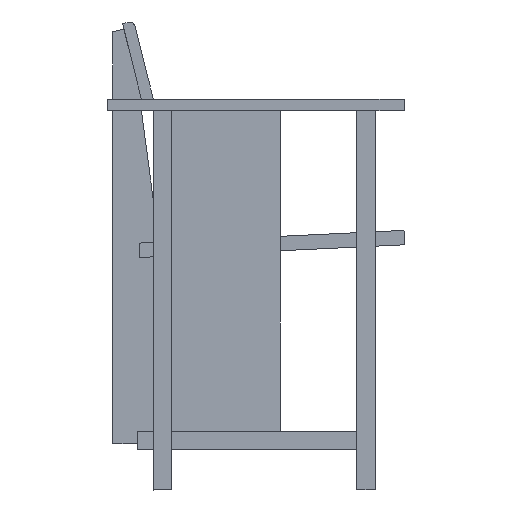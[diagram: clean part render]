
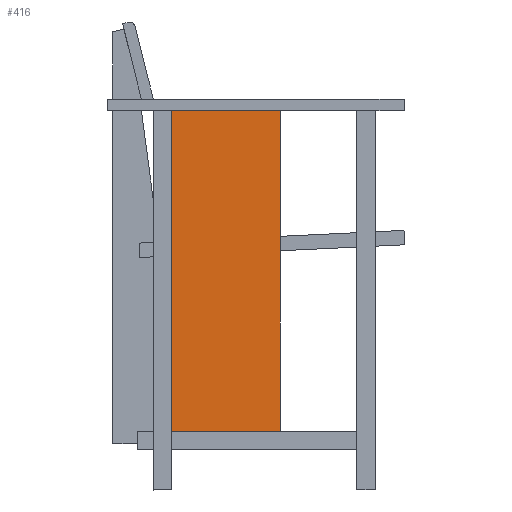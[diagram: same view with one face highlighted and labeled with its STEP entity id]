
A CAD part, left-side view. The second image highlights one B-rep face of the part: STEP entity #416.
In plain terms, the highlighted free-form (B-spline) face has degree [1, 1] with [2, 2] control points.
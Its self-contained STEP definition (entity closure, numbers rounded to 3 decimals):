
#416=ADVANCED_FACE('',(#551),#5558,.T.);
#551=FACE_OUTER_BOUND('',#686,.T.);
#686=EDGE_LOOP('',(#911,#912,#913,#914));
#911=ORIENTED_EDGE('',*,*,#3355,.T.);
#912=ORIENTED_EDGE('',*,*,#3356,.T.);
#913=ORIENTED_EDGE('',*,*,#3357,.T.);
#914=ORIENTED_EDGE('',*,*,#3358,.T.);
#1535=PCURVE('',#5558,#2159);
#1536=PCURVE('',#5558,#2160);
#1537=PCURVE('',#5558,#2161);
#1538=PCURVE('',#5558,#2162);
#2159=DEFINITIONAL_REPRESENTATION('',(#4048),#9857);
#2160=DEFINITIONAL_REPRESENTATION('',(#4050),#9857);
#2161=DEFINITIONAL_REPRESENTATION('',(#4052),#9857);
#2162=DEFINITIONAL_REPRESENTATION('',(#4054),#9857);
#2779=SURFACE_CURVE('',#4047,(#1535),.PCURVE_S1.);
#2780=SURFACE_CURVE('',#4049,(#1536),.PCURVE_S1.);
#2781=SURFACE_CURVE('',#4051,(#1537),.PCURVE_S1.);
#2782=SURFACE_CURVE('',#4053,(#1538),.PCURVE_S1.);
#3355=EDGE_CURVE('',#5094,#5092,#2779,.T.);
#3356=EDGE_CURVE('',#5092,#5093,#2780,.T.);
#3357=EDGE_CURVE('',#5093,#5095,#2781,.T.);
#3358=EDGE_CURVE('',#5095,#5094,#2782,.T.);
#4047=B_SPLINE_CURVE_WITH_KNOTS('',1,(#6419,#6420),.UNSPECIFIED.,.F.,.F.,
(2,2),(203.,388.),.UNSPECIFIED.);
#4048=B_SPLINE_CURVE_WITH_KNOTS('',1,(#6421,#6422),.UNSPECIFIED.,.F.,.F.,
(2,2),(203.,388.),.UNSPECIFIED.);
#4049=B_SPLINE_CURVE_WITH_KNOTS('',1,(#6423,#6424),.UNSPECIFIED.,.F.,.F.,
(2,2),(-556.,0.),.UNSPECIFIED.);
#4050=B_SPLINE_CURVE_WITH_KNOTS('',1,(#6425,#6426),.UNSPECIFIED.,.F.,.F.,
(2,2),(-556.,0.),.UNSPECIFIED.);
#4051=B_SPLINE_CURVE_WITH_KNOTS('',1,(#6427,#6428),.UNSPECIFIED.,.F.,.F.,
(2,2),(0.,188.),.UNSPECIFIED.);
#4052=B_SPLINE_CURVE_WITH_KNOTS('',1,(#6429,#6430),.UNSPECIFIED.,.F.,.F.,
(2,2),(0.,188.),.UNSPECIFIED.);
#4053=B_SPLINE_CURVE_WITH_KNOTS('',1,(#6431,#6432),.UNSPECIFIED.,.F.,.F.,
(2,2),(0.,556.),.UNSPECIFIED.);
#4054=B_SPLINE_CURVE_WITH_KNOTS('',1,(#6433,#6434),.UNSPECIFIED.,.F.,.F.,
(2,2),(0.,556.),.UNSPECIFIED.);
#5092=VERTEX_POINT('',#6415);
#5093=VERTEX_POINT('',#6416);
#5094=VERTEX_POINT('',#6417);
#5095=VERTEX_POINT('',#6418);
#5558=B_SPLINE_SURFACE_WITH_KNOTS('',1,1,((#6411,#6412),(#6413,#6414)),
 .UNSPECIFIED.,.F.,.F.,.F.,(2,2),(2,2),(0.,556.),(0.,204.968),
 .UNSPECIFIED.);
#6411=CARTESIAN_POINT('',(10.,165.,102.));
#6412=CARTESIAN_POINT('',(10.,369.968,102.));
#6413=CARTESIAN_POINT('',(10.,165.,658.));
#6414=CARTESIAN_POINT('',(10.,369.968,658.));
#6415=CARTESIAN_POINT('',(10.,165.,102.));
#6416=CARTESIAN_POINT('',(10.,165.,658.));
#6417=CARTESIAN_POINT('',(10.,353.,102.));
#6418=CARTESIAN_POINT('',(10.,353.,658.));
#6419=CARTESIAN_POINT('',(10.,353.,102.));
#6420=CARTESIAN_POINT('',(10.,165.,102.));
#6421=CARTESIAN_POINT('',(0.,188.));
#6422=CARTESIAN_POINT('',(0.,0.));
#6423=CARTESIAN_POINT('',(10.,165.,102.));
#6424=CARTESIAN_POINT('',(10.,165.,658.));
#6425=CARTESIAN_POINT('',(0.,0.));
#6426=CARTESIAN_POINT('',(556.,0.));
#6427=CARTESIAN_POINT('',(10.,165.,658.));
#6428=CARTESIAN_POINT('',(10.,353.,658.));
#6429=CARTESIAN_POINT('',(556.,0.));
#6430=CARTESIAN_POINT('',(556.,188.));
#6431=CARTESIAN_POINT('',(10.,353.,658.));
#6432=CARTESIAN_POINT('',(10.,353.,102.));
#6433=CARTESIAN_POINT('',(556.,188.));
#6434=CARTESIAN_POINT('',(0.,188.));
#9857=(
GEOMETRIC_REPRESENTATION_CONTEXT(2)
PARAMETRIC_REPRESENTATION_CONTEXT()
REPRESENTATION_CONTEXT('pspace','')
);
